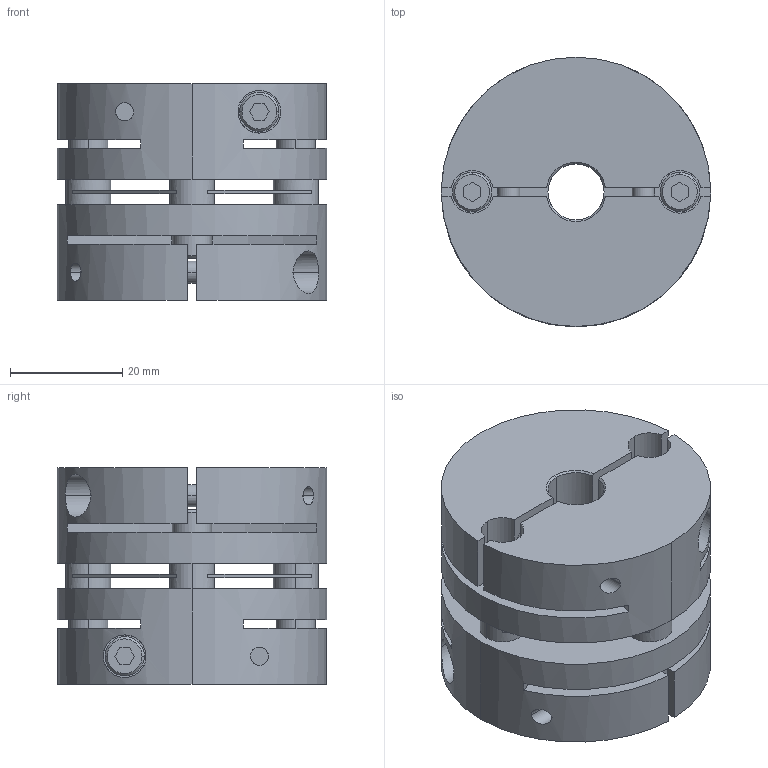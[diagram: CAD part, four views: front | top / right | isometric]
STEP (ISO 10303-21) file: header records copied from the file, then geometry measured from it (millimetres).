
FILE_DESCRIPTION((''),'2;1');
FILE_NAME('LAS-48C-10×11.stp','2015-10-14T15:34:31',(''),(''),'AutoCAD STEP 2000i','AutoCAD 2000i',', , ');
FILE_SCHEMA(('CONFIG_CONTROL_DESIGN'));
Length unit declared in the file: millimetre
Products named in the file (5): LAS-48C-12×12; 忣兜1; LA-4802-D12-1; LA-4802-D12; LAS48-ITA
Assembly tree (4 placements, depth 2):
  LAS-48C-12×12
    忣兜1
    LA-4802-D12-1
    LA-4802-D12
    LAS48-ITA
Bounding box: 48 x 48 x 38.6 mm (x, y, z)
Volume: 52556.9 mm3; surface area: 22815.4 mm2
Topology: 1 solids, 1 shells, 224 faces, 588 edges, 384 vertices
Faces by surface type: plane 112, cylinder 84, cone 28
Entity records: 7607 total; most frequent: CARTESIAN_POINT 1713, DIRECTION 1250, ORIENTED_EDGE 1176, EDGE_CURVE 588, AXIS2_PLACEMENT_3D 457, VERTEX_POINT 384, VECTOR 336, LINE 336
